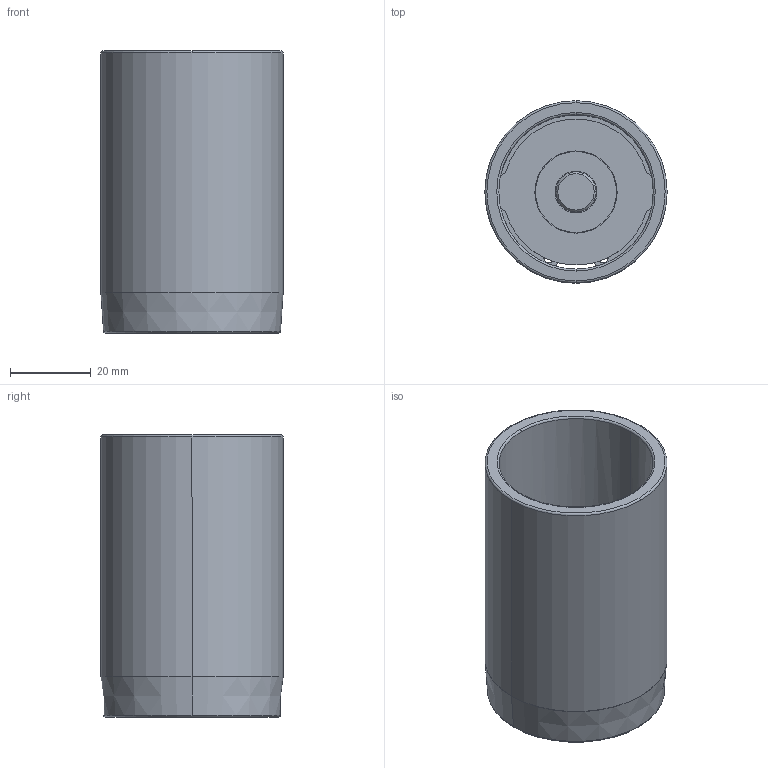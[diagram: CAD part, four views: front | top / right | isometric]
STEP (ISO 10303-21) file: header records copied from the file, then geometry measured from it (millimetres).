
FILE_DESCRIPTION((''),'2;1');
FILE_NAME('C12_038_070.stp','2009-01-28T09:51:22',(''),(''),'Mechanical Desktop 2009','Mechanical Desktop 2009',', , ');
FILE_SCHEMA(('CONFIG_CONTROL_DESIGN'));
Length unit declared in the file: millimetre
Products named in the file (2): Product; blmdl1
Assembly tree (1 placements, depth 2):
  Product
    blmdl1
Bounding box: 45.25 x 45.25 x 70 mm (x, y, z)
Volume: 37023.4 mm3; surface area: 25229.4 mm2
Topology: 5 solids, 5 shells, 79 faces, 200 edges, 134 vertices
Faces by surface type: cylinder 34, plane 29, torus 10, cone 6
Entity records: 2585 total; most frequent: DIRECTION 480, CARTESIAN_POINT 435, ORIENTED_EDGE 400, AXIS2_PLACEMENT_3D 203, EDGE_CURVE 200, VERTEX_POINT 134, CIRCLE 122, EDGE_LOOP 92
